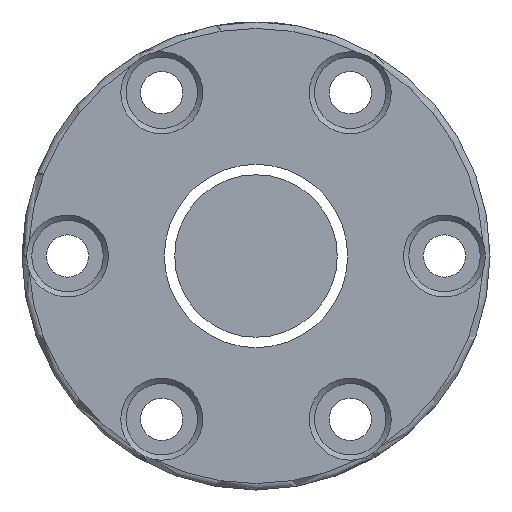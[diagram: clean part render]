
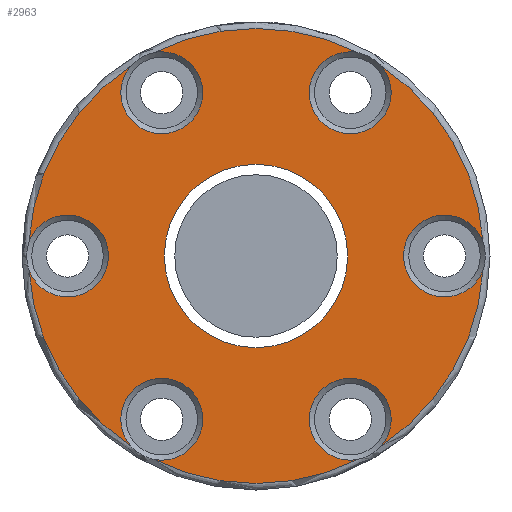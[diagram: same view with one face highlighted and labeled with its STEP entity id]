
A CAD part, left-side view. The second image highlights one B-rep face of the part: STEP entity #2963.
In plain terms, the highlighted planar face has unit normal (-1, 0, 0).
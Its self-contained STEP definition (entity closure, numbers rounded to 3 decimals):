
#14 = DIRECTION ( 'NONE',  ( 0., -1., 0. ) ) ;
#26 = CARTESIAN_POINT ( 'NONE',  ( -130., -19.295, -29.201 ) ) ;
#38 = CARTESIAN_POINT ( 'NONE',  ( -130., 29., 0. ) ) ;
#52 = CARTESIAN_POINT ( 'NONE',  ( -130., 34.936, -2.109 ) ) ;
#62 = CARTESIAN_POINT ( 'NONE',  ( -130., -19.295, 29.201 ) ) ;
#96 = ORIENTED_EDGE ( 'NONE', *, *, #846, .T. ) ;
#149 = CIRCLE ( 'NONE', #2520, 35. ) ;
#152 = ORIENTED_EDGE ( 'NONE', *, *, #686, .T. ) ;
#171 = CIRCLE ( 'NONE', #2789, 35. ) ;
#235 = CARTESIAN_POINT ( 'NONE',  ( -130., 15.641, -31.31 ) ) ;
#256 = CIRCLE ( 'NONE', #2380, 14.1 ) ;
#265 = ORIENTED_EDGE ( 'NONE', *, *, #458, .T. ) ;
#283 = AXIS2_PLACEMENT_3D ( 'NONE', #578, #1939, #2932 ) ;
#298 = FACE_OUTER_BOUND ( 'NONE', #1562, .T. ) ;
#311 = CIRCLE ( 'NONE', #701, 6.3 ) ;
#335 = ORIENTED_EDGE ( 'NONE', *, *, #2422, .T. ) ;
#375 = CARTESIAN_POINT ( 'NONE',  ( -130., -34.936, 2.109 ) ) ;
#391 = CARTESIAN_POINT ( 'NONE',  ( -130., -34.936, -2.109 ) ) ;
#399 = VERTEX_POINT ( 'NONE', #235 ) ;
#458 = EDGE_CURVE ( 'NONE', #2840, #2216, #2086, .T. ) ;
#469 = ORIENTED_EDGE ( 'NONE', *, *, #579, .T. ) ;
#531 = DIRECTION ( 'NONE',  ( 0., -1., 0. ) ) ;
#558 = CIRCLE ( 'NONE', #2991, 35. ) ;
#578 = CARTESIAN_POINT ( 'NONE',  ( -130., 14.5, 25.115 ) ) ;
#579 = EDGE_CURVE ( 'NONE', #2432, #1007, #808, .T. ) ;
#585 = VERTEX_POINT ( 'NONE', #391 ) ;
#635 = EDGE_CURVE ( 'NONE', #2216, #585, #171, .T. ) ;
#647 = CARTESIAN_POINT ( 'NONE',  ( -130., -14.5, 25.115 ) ) ;
#660 = DIRECTION ( 'NONE',  ( 0., -1., 0. ) ) ;
#686 = EDGE_CURVE ( 'NONE', #1087, #1087, #256, .T. ) ;
#701 = AXIS2_PLACEMENT_3D ( 'NONE', #647, #902, #1590 ) ;
#727 = EDGE_CURVE ( 'NONE', #1486, #2045, #558, .T. ) ;
#756 = AXIS2_PLACEMENT_3D ( 'NONE', #2553, #958, #14 ) ;
#808 = CIRCLE ( 'NONE', #1603, 35. ) ;
#823 = EDGE_CURVE ( 'NONE', #2871, #1486, #311, .T. ) ;
#837 = DIRECTION ( 'NONE',  ( 0., -1., 0. ) ) ;
#846 = EDGE_CURVE ( 'NONE', #585, #2974, #2435, .T. ) ;
#848 = CARTESIAN_POINT ( 'NONE',  ( -130., -15.641, 31.31 ) ) ;
#867 = DIRECTION ( 'NONE',  ( -1., 0., 0. ) ) ;
#866 = CIRCLE ( 'NONE', #2588, 6.3 ) ;
#899 = DIRECTION ( 'NONE',  ( -1., 0., 0. ) ) ;
#902 = DIRECTION ( 'NONE',  ( 1., 0., 0. ) ) ;
#916 = DIRECTION ( 'NONE',  ( 0., 1., 0. ) ) ;
#958 = DIRECTION ( 'NONE',  ( -1., 0., 0. ) ) ;
#1004 = EDGE_CURVE ( 'NONE', #2397, #1043, #1883, .T. ) ;
#1007 = VERTEX_POINT ( 'NONE', #1894 ) ;
#1010 = CARTESIAN_POINT ( 'NONE',  ( -130., 36., 0. ) ) ;
#1043 = VERTEX_POINT ( 'NONE', #1855 ) ;
#1068 = CARTESIAN_POINT ( 'NONE',  ( -130., 14.5, -25.115 ) ) ;
#1081 = CARTESIAN_POINT ( 'NONE',  ( -130., -14.5, -25.115 ) ) ;
#1087 = VERTEX_POINT ( 'NONE', #1836 ) ;
#1108 = AXIS2_PLACEMENT_3D ( 'NONE', #1618, #1135, #2552 ) ;
#1112 = DIRECTION ( 'NONE',  ( 0., -1., 0. ) ) ;
#1135 = DIRECTION ( 'NONE',  ( 1., 0., 0. ) ) ;
#1147 = AXIS2_PLACEMENT_3D ( 'NONE', #1864, #3067, #2140 ) ;
#1243 = FACE_BOUND ( 'NONE', #1910, .T. ) ;
#1281 = DIRECTION ( 'NONE',  ( 1., 0., 0. ) ) ;
#1357 = CARTESIAN_POINT ( 'NONE',  ( -130., 0., 0. ) ) ;
#1422 = ORIENTED_EDGE ( 'NONE', *, *, #2493, .T. ) ;
#1436 = ORIENTED_EDGE ( 'NONE', *, *, #1004, .T. ) ;
#1486 = VERTEX_POINT ( 'NONE', #848 ) ;
#1547 = DIRECTION ( 'NONE',  ( -1., 0., 0. ) ) ;
#1562 = EDGE_LOOP ( 'NONE', ( #96, #1422, #1740, #2233, #335, #469, #1964, #1436, #2001, #3027, #265, #2100 ) ) ;
#1590 = DIRECTION ( 'NONE',  ( 0., -1., 0. ) ) ;
#1603 = AXIS2_PLACEMENT_3D ( 'NONE', #2037, #867, #1112 ) ;
#1618 = CARTESIAN_POINT ( 'NONE',  ( -130., -29., 0. ) ) ;
#1630 = DIRECTION ( 'NONE',  ( 0., -1., 0. ) ) ;
#1684 = EDGE_CURVE ( 'NONE', #1043, #399, #866, .T. ) ;
#1740 = ORIENTED_EDGE ( 'NONE', *, *, #823, .T. ) ;
#1759 = CARTESIAN_POINT ( 'NONE',  ( -130., -15.641, -31.31 ) ) ;
#1777 = CIRCLE ( 'NONE', #283, 6.3 ) ;
#1836 = CARTESIAN_POINT ( 'NONE',  ( -130., 14.1, 0. ) ) ;
#1838 = DIRECTION ( 'NONE',  ( 0., -1., 0. ) ) ;
#1854 = CARTESIAN_POINT ( 'NONE',  ( -130., 0., 0. ) ) ;
#1855 = CARTESIAN_POINT ( 'NONE',  ( -130., 19.295, -29.201 ) ) ;
#1864 = CARTESIAN_POINT ( 'NONE',  ( -130., 0., 0. ) ) ;
#1865 = DIRECTION ( 'NONE',  ( -1., 0., 0. ) ) ;
#1883 = CIRCLE ( 'NONE', #756, 35. ) ;
#1894 = CARTESIAN_POINT ( 'NONE',  ( -130., 34.936, 2.109 ) ) ;
#1910 = EDGE_LOOP ( 'NONE', ( #152 ) ) ;
#1922 = DIRECTION ( 'NONE',  ( 1., 0., 0. ) ) ;
#1939 = DIRECTION ( 'NONE',  ( 1., 0., 0. ) ) ;
#1964 = ORIENTED_EDGE ( 'NONE', *, *, #2347, .T. ) ;
#2001 = ORIENTED_EDGE ( 'NONE', *, *, #1684, .T. ) ;
#2021 = DIRECTION ( 'NONE',  ( 1., 0., 0. ) ) ;
#2037 = CARTESIAN_POINT ( 'NONE',  ( -130., 0., 0. ) ) ;
#2045 = VERTEX_POINT ( 'NONE', #2110 ) ;
#2062 = CARTESIAN_POINT ( 'NONE',  ( -130., 0., 0. ) ) ;
#2086 = CIRCLE ( 'NONE', #2587, 6.3 ) ;
#2100 = ORIENTED_EDGE ( 'NONE', *, *, #635, .T. ) ;
#2110 = CARTESIAN_POINT ( 'NONE',  ( -130., 15.641, 31.31 ) ) ;
#2117 = EDGE_CURVE ( 'NONE', #399, #2840, #2787, .T. ) ;
#2140 = DIRECTION ( 'NONE',  ( 0., -1., 0. ) ) ;
#2180 = PLANE ( 'NONE',  #2213 ) ;
#2213 = AXIS2_PLACEMENT_3D ( 'NONE', #1010, #1547, #2257 ) ;
#2216 = VERTEX_POINT ( 'NONE', #26 ) ;
#2233 = ORIENTED_EDGE ( 'NONE', *, *, #727, .T. ) ;
#2257 = DIRECTION ( 'NONE',  ( 0., -1., 0. ) ) ;
#2337 = DIRECTION ( 'NONE',  ( 1., 0., 0. ) ) ;
#2347 = EDGE_CURVE ( 'NONE', #1007, #2397, #2630, .T. ) ;
#2380 = AXIS2_PLACEMENT_3D ( 'NONE', #1357, #2337, #916 ) ;
#2397 = VERTEX_POINT ( 'NONE', #52 ) ;
#2422 = EDGE_CURVE ( 'NONE', #2045, #2432, #1777, .T. ) ;
#2432 = VERTEX_POINT ( 'NONE', #2446 ) ;
#2435 = CIRCLE ( 'NONE', #1108, 6.3 ) ;
#2446 = CARTESIAN_POINT ( 'NONE',  ( -130., 19.295, 29.201 ) ) ;
#2493 = EDGE_CURVE ( 'NONE', #2974, #2871, #149, .T. ) ;
#2520 = AXIS2_PLACEMENT_3D ( 'NONE', #2764, #899, #1838 ) ;
#2552 = DIRECTION ( 'NONE',  ( 0., -1., 0. ) ) ;
#2553 = CARTESIAN_POINT ( 'NONE',  ( -130., 0., 0. ) ) ;
#2587 = AXIS2_PLACEMENT_3D ( 'NONE', #1081, #2021, #531 ) ;
#2588 = AXIS2_PLACEMENT_3D ( 'NONE', #1068, #1281, #837 ) ;
#2630 = CIRCLE ( 'NONE', #2881, 6.3 ) ;
#2764 = CARTESIAN_POINT ( 'NONE',  ( -130., 0., 0. ) ) ;
#2787 = CIRCLE ( 'NONE', #1147, 35. ) ;
#2789 = AXIS2_PLACEMENT_3D ( 'NONE', #2062, #3054, #1630 ) ;
#2840 = VERTEX_POINT ( 'NONE', #1759 ) ;
#2871 = VERTEX_POINT ( 'NONE', #62 ) ;
#2880 = DIRECTION ( 'NONE',  ( 0., -1., 0. ) ) ;
#2881 = AXIS2_PLACEMENT_3D ( 'NONE', #38, #1922, #2880 ) ;
#2932 = DIRECTION ( 'NONE',  ( 0., -1., 0. ) ) ;
#2963 = ADVANCED_FACE ( 'NONE', ( #298, #1243 ), #2180, .T. ) ;
#2974 = VERTEX_POINT ( 'NONE', #375 ) ;
#2991 = AXIS2_PLACEMENT_3D ( 'NONE', #1854, #1865, #660 ) ;
#3027 = ORIENTED_EDGE ( 'NONE', *, *, #2117, .T. ) ;
#3054 = DIRECTION ( 'NONE',  ( -1., 0., 0. ) ) ;
#3067 = DIRECTION ( 'NONE',  ( -1., 0., 0. ) ) ;
